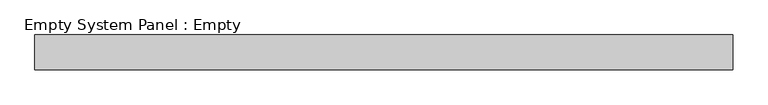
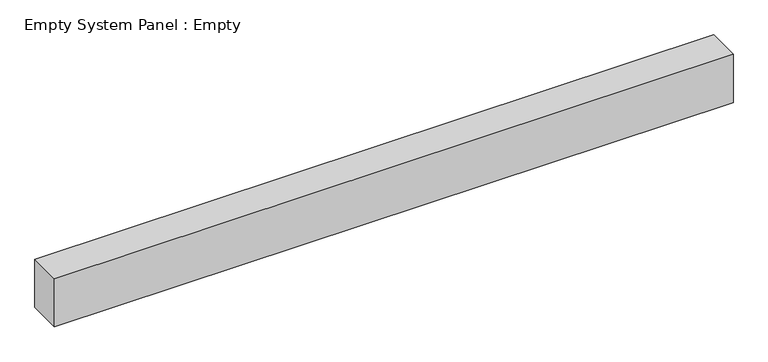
"""IFC4 building model written with IfcOpenShell, lengths in millimetres: plate geometry, Empty System Panel : Empty."""

from ifc_helpers import new_model, si_unit, origin, origin_with_axes, place, context, project, spatial, polyline, outline, extrude, source, transform, mapped, element, save


def empty_system_panel_empty_c392bfdd(model_context):
    return source(origin(), model_context, "Body", "SweptSolid", [
        extrude(outline(polyline([(1000.0, -50.0), (-1000.0, -50.0), (-1000.0, 50.0), (1000.0, 50.0), (1000.0, -50.0)])), origin_with_axes(), (0.0, 0.0, 1.0), 150.4020203),
    ])


if __name__ == "__main__":
    model = new_model("IFC4")
    model_context = context("Model", 3, world=origin())
    ifc_project = project(units=[si_unit("LENGTHUNIT", "METRE", prefix="MILLI")], contexts=[model_context])
    site = spatial("IfcSite", under=ifc_project)
    building = spatial("IfcBuilding", under=site)
    placement = place(None, origin())
    empty_system_panel_empty_shape = empty_system_panel_empty_c392bfdd(model_context)
    element("IfcPlate", 1, ObjectType="Empty System Panel : Empty", at=placement, inside=building, context=model_context, shape_type="MappedRepresentation", body=[
        mapped(empty_system_panel_empty_shape, transform((0.0, 0.0, 0.0), x_axis=(1.0, 0.0, 0.0), y_axis=(0.0, 1.0, 0.0), z_axis=(0.0, 0.0, 1.0))),
    ])
    save(model, "model.ifc")
